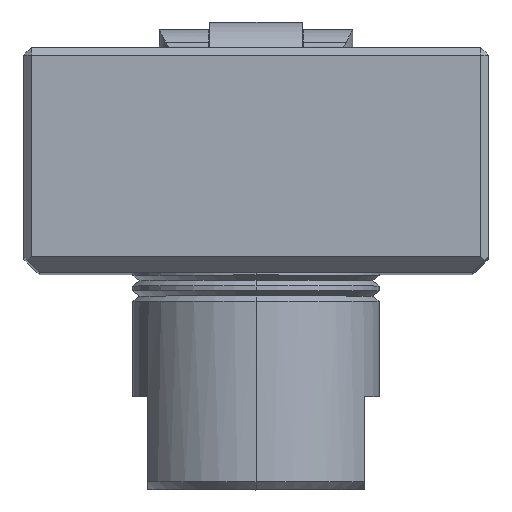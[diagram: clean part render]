
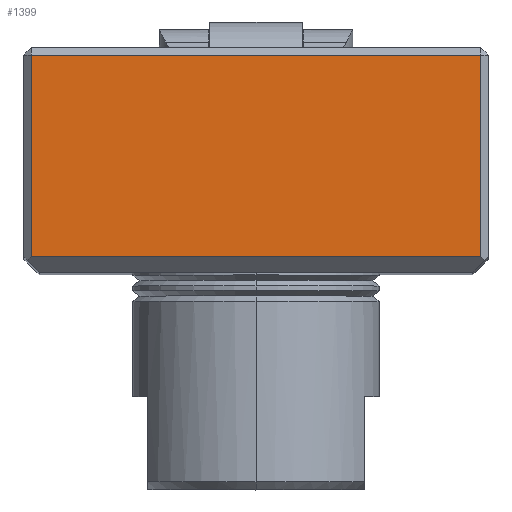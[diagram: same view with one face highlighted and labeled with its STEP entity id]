
A CAD part, top view. The second image highlights one B-rep face of the part: STEP entity #1399.
In plain terms, the highlighted planar face has unit normal (0, 0, 1).
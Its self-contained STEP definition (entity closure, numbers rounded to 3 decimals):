
#1204 = ORIENTED_EDGE ( 'NONE', *, *, #1205, .T. ) ;
#1205 = EDGE_CURVE ( 'NONE', #1335, #1234, #4385, .T. ) ;
#1233 = EDGE_CURVE ( 'NONE', #1234, #1235, #4448, .T. ) ;
#1234 = VERTEX_POINT ( 'NONE', #4444 ) ;
#1235 = VERTEX_POINT ( 'NONE', #4443 ) ;
#1330 = ORIENTED_EDGE ( 'NONE', *, *, #1331, .T. ) ;
#1331 = EDGE_CURVE ( 'NONE', #1235, #1332, #4648, .T. ) ;
#1332 = VERTEX_POINT ( 'NONE', #4644 ) ;
#1333 = ORIENTED_EDGE ( 'NONE', *, *, #1334, .T. ) ;
#1334 = EDGE_CURVE ( 'NONE', #1332, #1335, #4643, .T. ) ;
#1335 = VERTEX_POINT ( 'NONE', #4639 ) ;
#1394 = EDGE_LOOP ( 'NONE', ( #1396, #1330, #1333, #1204 ) ) ;
#1396 = ORIENTED_EDGE ( 'NONE', *, *, #1233, .T. ) ;
#1399 = ADVANCED_FACE ( 'NONE', ( #4706 ), #4705, .F. ) ;
#4385 = LINE ( 'NONE', #4426, #4425 ) ;
#4408 = DIRECTION ( 'NONE',  ( -1., 0., 0. ) ) ;
#4425 = VECTOR ( 'NONE', #4408, 1000. ) ;
#4426 = CARTESIAN_POINT ( 'NONE',  ( -15., 14., 50. ) ) ;
#4443 = CARTESIAN_POINT ( 'NONE',  ( -14.5, 1., 50. ) ) ;
#4444 = CARTESIAN_POINT ( 'NONE',  ( -14.5, 14., 50. ) ) ;
#4445 = DIRECTION ( 'NONE',  ( 0., -1., 0. ) ) ;
#4446 = VECTOR ( 'NONE', #4445, 1000. ) ;
#4447 = CARTESIAN_POINT ( 'NONE',  ( -14.5, 0., 50. ) ) ;
#4448 = LINE ( 'NONE', #4447, #4446 ) ;
#4639 = CARTESIAN_POINT ( 'NONE',  ( 14.5, 14., 50. ) ) ;
#4640 = DIRECTION ( 'NONE',  ( 0., 1., 0. ) ) ;
#4641 = VECTOR ( 'NONE', #4640, 1000. ) ;
#4642 = CARTESIAN_POINT ( 'NONE',  ( 14.5, 14.5, 50. ) ) ;
#4643 = LINE ( 'NONE', #4642, #4641 ) ;
#4644 = CARTESIAN_POINT ( 'NONE',  ( 14.5, 1., 50. ) ) ;
#4645 = DIRECTION ( 'NONE',  ( 1., 0., 0. ) ) ;
#4646 = VECTOR ( 'NONE', #4645, 1000. ) ;
#4647 = CARTESIAN_POINT ( 'NONE',  ( 14.5, 1., 50. ) ) ;
#4648 = LINE ( 'NONE', #4647, #4646 ) ;
#4701 = DIRECTION ( 'NONE',  ( -1., 0., 0. ) ) ;
#4702 = DIRECTION ( 'NONE',  ( 0., 0., -1. ) ) ;
#4703 = CARTESIAN_POINT ( 'NONE',  ( 15., 0., 50. ) ) ;
#4704 = AXIS2_PLACEMENT_3D ( 'NONE', #4703, #4702, #4701 ) ;
#4705 = PLANE ( 'NONE',  #4704 ) ;
#4706 = FACE_OUTER_BOUND ( 'NONE', #1394, .T. ) ;
